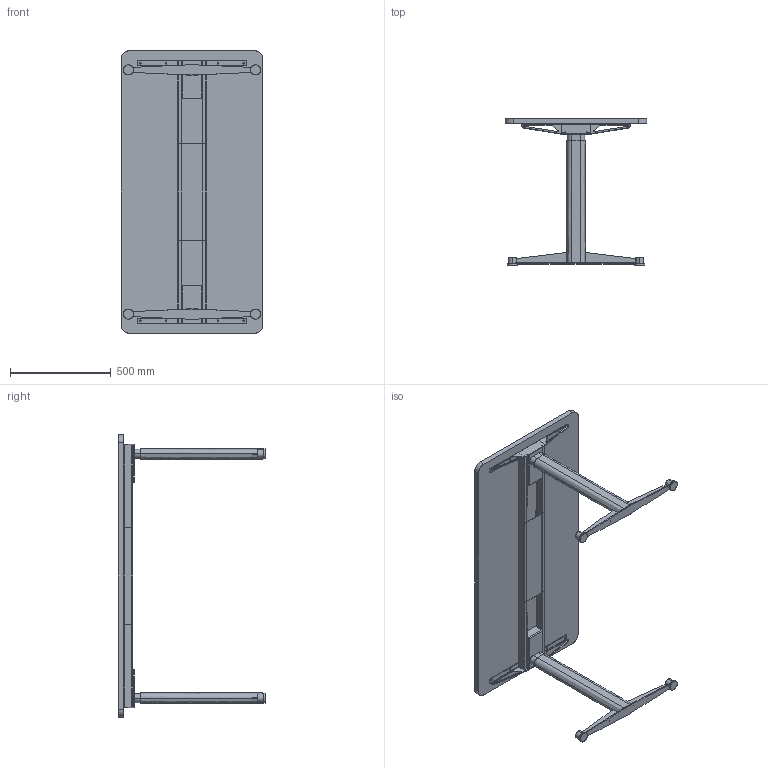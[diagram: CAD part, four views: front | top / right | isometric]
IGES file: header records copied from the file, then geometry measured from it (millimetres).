
Start section: SolidWorks IGES file using analytic representation for surfaces
Global section: file name: C:\Users\simone.cerana\OneDrive - Gruppo Tecno\Desktop\CHINA\DISEGNI DI SERIE\ASSIEMI LISTINO\AXIS LISTINO\AX1407ST.IGS; native system: SolidWorks 2024; preprocessor: SolidWorks 2024; author: simone.cerana; date: 260508.091427; units: millimetre
Bounding box: 700 x 729.39 x 1400 mm (x, y, z)
Surface area: 3136798.5 mm2 (no closed solid volume)
Topology: 0 solids, 0 shells, 290 faces, 4168 edges, 4164 vertices
Faces by surface type: bspline 162, revolution 128
